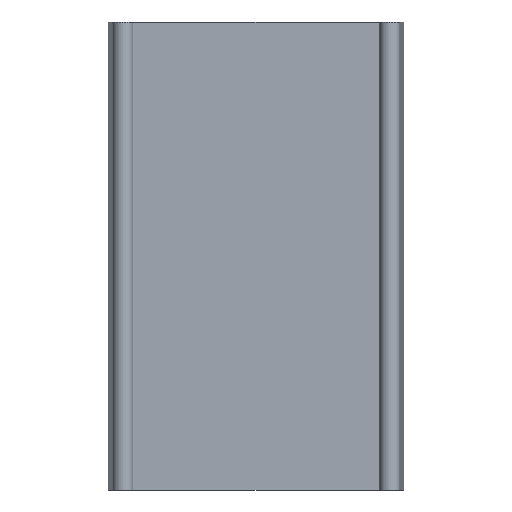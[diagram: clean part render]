
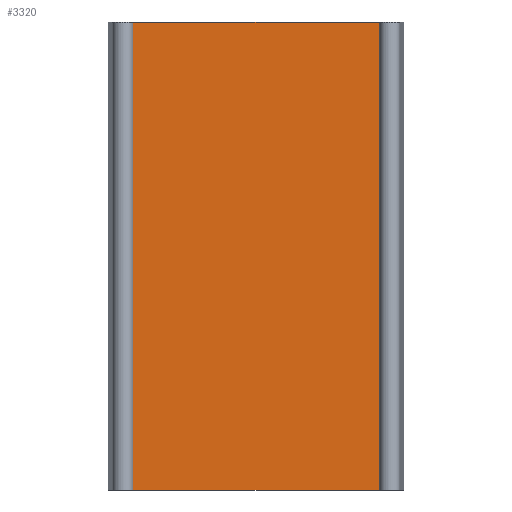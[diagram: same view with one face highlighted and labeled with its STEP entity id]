
A CAD part, front view. The second image highlights one B-rep face of the part: STEP entity #3320.
In plain terms, the highlighted planar face has unit normal (0, -1, 0).
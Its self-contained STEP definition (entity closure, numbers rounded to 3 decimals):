
#210=CARTESIAN_POINT('',(26.3,31.7,0.));
#220=VERTEX_POINT('',#210);
#250=CARTESIAN_POINT('',(0.,31.7,0.));
#260=DIRECTION('',(1.,0.,0.));
#270=VECTOR('',#260,1.);
#280=LINE('',#250,#270);
#290=CARTESIAN_POINT('',(-26.3,31.7,0.));
#300=VERTEX_POINT('',#290);
#310=EDGE_CURVE('',#300,#220,#280,.T.);
#1910=CARTESIAN_POINT('',(-26.3,31.7,-100.));
#1920=VERTEX_POINT('',#1910);
#1950=CARTESIAN_POINT('',(0.,31.7,-100.));
#1960=DIRECTION('',(1.,0.,0.));
#1970=VECTOR('',#1960,1.);
#1980=LINE('',#1950,#1970);
#1990=CARTESIAN_POINT('',(26.3,31.7,-100.));
#2000=VERTEX_POINT('',#1990);
#2010=EDGE_CURVE('',#1920,#2000,#1980,.T.);
#3110=CARTESIAN_POINT('',(26.3,31.7,0.));
#3120=DIRECTION('',(-0.,1.,0.));
#3130=DIRECTION('',(1.,0.,0.));
#3140=AXIS2_PLACEMENT_3D('',#3110,#3120,#3130);
#3150=PLANE('',#3140);
#3160=CARTESIAN_POINT('',(-26.3,31.7,0.));
#3170=DIRECTION('',(0.,0.,-1.));
#3180=VECTOR('',#3170,1.);
#3190=LINE('',#3160,#3180);
#3200=EDGE_CURVE('',#300,#1920,#3190,.T.);
#3210=ORIENTED_EDGE('',*,*,#3200,.T.);
#3220=ORIENTED_EDGE('',*,*,#310,.F.);
#3230=CARTESIAN_POINT('',(26.3,31.7,0.));
#3240=DIRECTION('',(0.,0.,-1.));
#3250=VECTOR('',#3240,1.);
#3260=LINE('',#3230,#3250);
#3270=EDGE_CURVE('',#220,#2000,#3260,.T.);
#3280=ORIENTED_EDGE('',*,*,#3270,.F.);
#3290=ORIENTED_EDGE('',*,*,#2010,.T.);
#3300=EDGE_LOOP('',(#3290,#3280,#3220,#3210));
#3310=FACE_OUTER_BOUND('',#3300,.T.);
#3320=ADVANCED_FACE('',(#3310),#3150,.F.);
